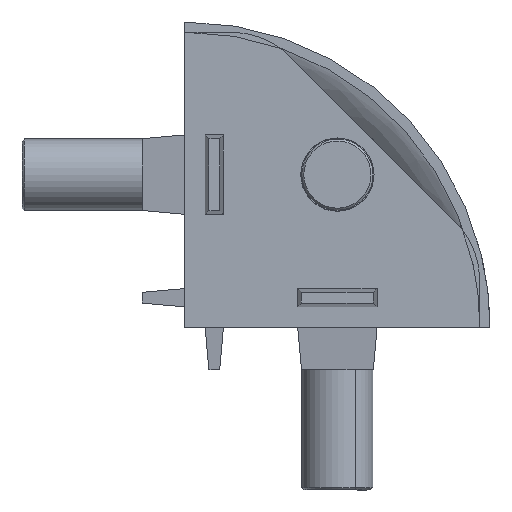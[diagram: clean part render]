
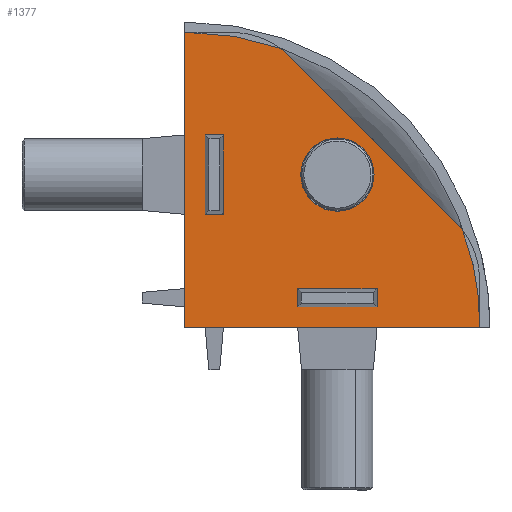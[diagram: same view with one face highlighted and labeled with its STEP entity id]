
A CAD part, front view. The second image highlights one B-rep face of the part: STEP entity #1377.
In plain terms, the highlighted planar face has unit normal (0, -1, 0) as drawn and (1, 0, 0) by its records, which use the part's own axes.
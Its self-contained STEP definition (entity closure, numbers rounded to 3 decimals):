
#1 = CARTESIAN_POINT ( 'NONE',  ( 0., 3.8, 11.1 ) ) ;
#13 = CARTESIAN_POINT ( 'NONE',  ( 0., 27.118, 9.793 ) ) ;
#29 = CARTESIAN_POINT ( 'NONE',  ( 0., 3.8, 0. ) ) ;
#82 = DIRECTION ( 'NONE',  ( 0., -0.707, 0.707 ) ) ;
#122 = DIRECTION ( 'NONE',  ( 0., 0., -1. ) ) ;
#180 = DIRECTION ( 'NONE',  ( 0., 0., -1. ) ) ;
#210 = DIRECTION ( 'NONE',  ( 0., 0., 1. ) ) ;
#229 = CARTESIAN_POINT ( 'NONE',  ( 0., 2., 0. ) ) ;
#272 = DIRECTION ( 'NONE',  ( 0., 0., -1. ) ) ;
#296 = CARTESIAN_POINT ( 'NONE',  ( 0., 0., 0. ) ) ;
#299 = FACE_BOUND ( 'NONE', #2076, .T. ) ;
#302 = FACE_BOUND ( 'NONE', #2814, .T. ) ;
#303 = FACE_OUTER_BOUND ( 'NONE', #2033, .T. ) ;
#305 = CIRCLE ( 'NONE', #875, 8.384 ) ;
#306 = LINE ( 'NONE', #852, #783 ) ;
#342 = LINE ( 'NONE', #1277, #427 ) ;
#366 = DIRECTION ( 'NONE',  ( 1., 0., 0. ) ) ;
#385 = CARTESIAN_POINT ( 'NONE',  ( 0., 20.616, 4.5 ) ) ;
#427 = VECTOR ( 'NONE', #1629, 1000. ) ;
#455 = CARTESIAN_POINT ( 'NONE',  ( 0., 29., 3.8 ) ) ;
#612 = VECTOR ( 'NONE', #82, 1000. ) ;
#660 = LINE ( 'NONE', #13, #612 ) ;
#663 = DIRECTION ( 'NONE',  ( 0., 1., 0. ) ) ;
#670 = DIRECTION ( 'NONE',  ( 0., 1., 0. ) ) ;
#691 = CARTESIAN_POINT ( 'NONE',  ( 0., 29., 18.9 ) ) ;
#713 = CARTESIAN_POINT ( 'NONE',  ( 0., 3.8, 18.9 ) ) ;
#724 = AXIS2_PLACEMENT_3D ( 'NONE', #2605, #2615, #2626 ) ;
#759 = AXIS2_PLACEMENT_3D ( 'NONE', #1442, #1414, #1406 ) ;
#773 = DIRECTION ( 'NONE',  ( 0., 0., 1. ) ) ;
#778 = DIRECTION ( 'NONE',  ( 1., 0., 0. ) ) ;
#783 = VECTOR ( 'NONE', #861, 1000. ) ;
#793 = PLANE ( 'NONE',  #1416 ) ;
#847 = CARTESIAN_POINT ( 'NONE',  ( 0., 29., 0. ) ) ;
#852 = CARTESIAN_POINT ( 'NONE',  ( 0., 29., 0. ) ) ;
#861 = DIRECTION ( 'NONE',  ( 0., 1., 0. ) ) ;
#875 = AXIS2_PLACEMENT_3D ( 'NONE', #988, #974, #956 ) ;
#897 = CARTESIAN_POINT ( 'NONE',  ( 0., 15., 11.4 ) ) ;
#905 = FACE_BOUND ( 'NONE', #3558, .T. ) ;
#922 = VERTEX_POINT ( 'NONE', #3310 ) ;
#952 = VECTOR ( 'NONE', #3687, 1000. ) ;
#956 = DIRECTION ( 'NONE',  ( 0., 0., -1. ) ) ;
#974 = DIRECTION ( 'NONE',  ( 1., 0., 0. ) ) ;
#976 = AXIS2_PLACEMENT_3D ( 'NONE', #385, #366, #2834 ) ;
#988 = CARTESIAN_POINT ( 'NONE',  ( 0., 4.5, 20.616 ) ) ;
#1000 = LINE ( 'NONE', #2496, #952 ) ;
#1170 = VERTEX_POINT ( 'NONE', #2338 ) ;
#1256 = VERTEX_POINT ( 'NONE', #2940 ) ;
#1269 = VECTOR ( 'NONE', #2826, 1000. ) ;
#1276 = CARTESIAN_POINT ( 'NONE',  ( 0., 29., 0. ) ) ;
#1277 = CARTESIAN_POINT ( 'NONE',  ( 0., 29., 29. ) ) ;
#1322 = EDGE_CURVE ( 'NONE', #922, #2487, #306, .T. ) ;
#1334 = LINE ( 'NONE', #3428, #2954 ) ;
#1364 = CIRCLE ( 'NONE', #724, 3.6 ) ;
#1377 = ADVANCED_FACE ( 'NONE', ( #302, #905, #299, #303 ), #793, .T. ) ;
#1406 = DIRECTION ( 'NONE',  ( 0., 0., -1. ) ) ;
#1408 = LINE ( 'NONE', #2566, #1269 ) ;
#1414 = DIRECTION ( 'NONE',  ( -1., 0., 0. ) ) ;
#1416 = AXIS2_PLACEMENT_3D ( 'NONE', #847, #778, #773 ) ;
#1430 = ORIENTED_EDGE ( 'NONE', *, *, #3352, .T. ) ;
#1440 = ORIENTED_EDGE ( 'NONE', *, *, #2628, .T. ) ;
#1442 = CARTESIAN_POINT ( 'NONE',  ( 0., 15., 15. ) ) ;
#1443 = ORIENTED_EDGE ( 'NONE', *, *, #3318, .T. ) ;
#1455 = VECTOR ( 'NONE', #122, 1000. ) ;
#1465 = ORIENTED_EDGE ( 'NONE', *, *, #3281, .T. ) ;
#1474 = ORIENTED_EDGE ( 'NONE', *, *, #3332, .T. ) ;
#1481 = ORIENTED_EDGE ( 'NONE', *, *, #3447, .T. ) ;
#1503 = LINE ( 'NONE', #29, #1455 ) ;
#1529 = ORIENTED_EDGE ( 'NONE', *, *, #3248, .T. ) ;
#1541 = ORIENTED_EDGE ( 'NONE', *, *, #3358, .T. ) ;
#1545 = ORIENTED_EDGE ( 'NONE', *, *, #2926, .T. ) ;
#1570 = ORIENTED_EDGE ( 'NONE', *, *, #2698, .T. ) ;
#1597 = ORIENTED_EDGE ( 'NONE', *, *, #2805, .T. ) ;
#1628 = ORIENTED_EDGE ( 'NONE', *, *, #2952, .T. ) ;
#1629 = DIRECTION ( 'NONE',  ( 0., -1., 0. ) ) ;
#1635 = ORIENTED_EDGE ( 'NONE', *, *, #1322, .T. ) ;
#1658 = CIRCLE ( 'NONE', #976, 8.384 ) ;
#1667 = ORIENTED_EDGE ( 'NONE', *, *, #3162, .T. ) ;
#1682 = ORIENTED_EDGE ( 'NONE', *, *, #2648, .T. ) ;
#1701 = ORIENTED_EDGE ( 'NONE', *, *, #1744, .T. ) ;
#1714 = ORIENTED_EDGE ( 'NONE', *, *, #2831, .T. ) ;
#1744 = EDGE_CURVE ( 'NONE', #3370, #2420, #660, .T. ) ;
#1756 = VECTOR ( 'NONE', #210, 1000. ) ;
#1768 = LINE ( 'NONE', #3829, #3594 ) ;
#1814 = VERTEX_POINT ( 'NONE', #3449 ) ;
#1875 = LINE ( 'NONE', #229, #1756 ) ;
#1927 = VERTEX_POINT ( 'NONE', #2114 ) ;
#2033 = EDGE_LOOP ( 'NONE', ( #1597, #1628, #1635, #1667, #1682, #1701, #1714 ) ) ;
#2075 = CARTESIAN_POINT ( 'NONE',  ( 0., 18.9, 2. ) ) ;
#2076 = EDGE_LOOP ( 'NONE', ( #1481, #1541, #1545, #1570 ) ) ;
#2092 = VERTEX_POINT ( 'NONE', #2670 ) ;
#2114 = CARTESIAN_POINT ( 'NONE',  ( 0., 11.1, 2. ) ) ;
#2126 = VECTOR ( 'NONE', #670, 1000. ) ;
#2195 = VERTEX_POINT ( 'NONE', #2075 ) ;
#2284 = LINE ( 'NONE', #455, #2753 ) ;
#2289 = VERTEX_POINT ( 'NONE', #2652 ) ;
#2338 = CARTESIAN_POINT ( 'NONE',  ( 0., 4.5, 29. ) ) ;
#2340 = VERTEX_POINT ( 'NONE', #2530 ) ;
#2366 = DIRECTION ( 'NONE',  ( 0., -1., 0. ) ) ;
#2380 = DIRECTION ( 'NONE',  ( 0., 0., 1. ) ) ;
#2416 = LINE ( 'NONE', #2450, #2861 ) ;
#2420 = VERTEX_POINT ( 'NONE', #3448 ) ;
#2450 = CARTESIAN_POINT ( 'NONE',  ( 0., 29., 0. ) ) ;
#2487 = VERTEX_POINT ( 'NONE', #1276 ) ;
#2496 = CARTESIAN_POINT ( 'NONE',  ( 0., 29., 2. ) ) ;
#2520 = CIRCLE ( 'NONE', #759, 3.6 ) ;
#2530 = CARTESIAN_POINT ( 'NONE',  ( 0., 18.9, 3.8 ) ) ;
#2566 = CARTESIAN_POINT ( 'NONE',  ( 0., 11.1, 0. ) ) ;
#2605 = CARTESIAN_POINT ( 'NONE',  ( 0., 15., 15. ) ) ;
#2612 = LINE ( 'NONE', #691, #2126 ) ;
#2615 = DIRECTION ( 'NONE',  ( -1., 0., 0. ) ) ;
#2626 = DIRECTION ( 'NONE',  ( 0., 0., -1. ) ) ;
#2628 = EDGE_CURVE ( 'NONE', #2658, #1814, #1768, .T. ) ;
#2648 = EDGE_CURVE ( 'NONE', #1256, #3370, #1658, .T. ) ;
#2652 = CARTESIAN_POINT ( 'NONE',  ( 0., 2., 18.9 ) ) ;
#2658 = VERTEX_POINT ( 'NONE', #1 ) ;
#2670 = CARTESIAN_POINT ( 'NONE',  ( 0., 11.1, 3.8 ) ) ;
#2698 = EDGE_CURVE ( 'NONE', #2340, #2195, #1334, .T. ) ;
#2722 = VERTEX_POINT ( 'NONE', #3044 ) ;
#2753 = VECTOR ( 'NONE', #663, 1000. ) ;
#2805 = EDGE_CURVE ( 'NONE', #1170, #2722, #342, .T. ) ;
#2814 = EDGE_LOOP ( 'NONE', ( #1529, #1430 ) ) ;
#2826 = DIRECTION ( 'NONE',  ( 0., 0., 1. ) ) ;
#2831 = EDGE_CURVE ( 'NONE', #2420, #1170, #305, .T. ) ;
#2834 = DIRECTION ( 'NONE',  ( 0., 0., -1. ) ) ;
#2841 = VERTEX_POINT ( 'NONE', #897 ) ;
#2861 = VECTOR ( 'NONE', #2380, 1000. ) ;
#2868 = CARTESIAN_POINT ( 'NONE',  ( 0., 27.118, 9.793 ) ) ;
#2878 = VERTEX_POINT ( 'NONE', #713 ) ;
#2926 = EDGE_CURVE ( 'NONE', #2092, #2340, #2284, .T. ) ;
#2940 = CARTESIAN_POINT ( 'NONE',  ( 0., 29., 4.5 ) ) ;
#2952 = EDGE_CURVE ( 'NONE', #2722, #922, #3182, .T. ) ;
#2954 = VECTOR ( 'NONE', #272, 1000. ) ;
#2986 = CARTESIAN_POINT ( 'NONE',  ( 0., 15., 18.6 ) ) ;
#3044 = CARTESIAN_POINT ( 'NONE',  ( 0., 0., 29. ) ) ;
#3103 = VERTEX_POINT ( 'NONE', #2986 ) ;
#3162 = EDGE_CURVE ( 'NONE', #2487, #1256, #2416, .T. ) ;
#3182 = LINE ( 'NONE', #296, #3510 ) ;
#3248 = EDGE_CURVE ( 'NONE', #2841, #3103, #2520, .T. ) ;
#3281 = EDGE_CURVE ( 'NONE', #2289, #2878, #2612, .T. ) ;
#3310 = CARTESIAN_POINT ( 'NONE',  ( 0., 0., 0. ) ) ;
#3318 = EDGE_CURVE ( 'NONE', #1814, #2289, #1875, .T. ) ;
#3332 = EDGE_CURVE ( 'NONE', #2878, #2658, #1503, .T. ) ;
#3352 = EDGE_CURVE ( 'NONE', #3103, #2841, #1364, .T. ) ;
#3358 = EDGE_CURVE ( 'NONE', #1927, #2092, #1408, .T. ) ;
#3370 = VERTEX_POINT ( 'NONE', #2868 ) ;
#3428 = CARTESIAN_POINT ( 'NONE',  ( 0., 18.9, 0. ) ) ;
#3447 = EDGE_CURVE ( 'NONE', #2195, #1927, #1000, .T. ) ;
#3448 = CARTESIAN_POINT ( 'NONE',  ( 0., 9.793, 27.118 ) ) ;
#3449 = CARTESIAN_POINT ( 'NONE',  ( 0., 2., 11.1 ) ) ;
#3510 = VECTOR ( 'NONE', #180, 1000. ) ;
#3558 = EDGE_LOOP ( 'NONE', ( #1440, #1443, #1465, #1474 ) ) ;
#3594 = VECTOR ( 'NONE', #2366, 1000. ) ;
#3687 = DIRECTION ( 'NONE',  ( 0., -1., 0. ) ) ;
#3829 = CARTESIAN_POINT ( 'NONE',  ( 0., 29., 11.1 ) ) ;
